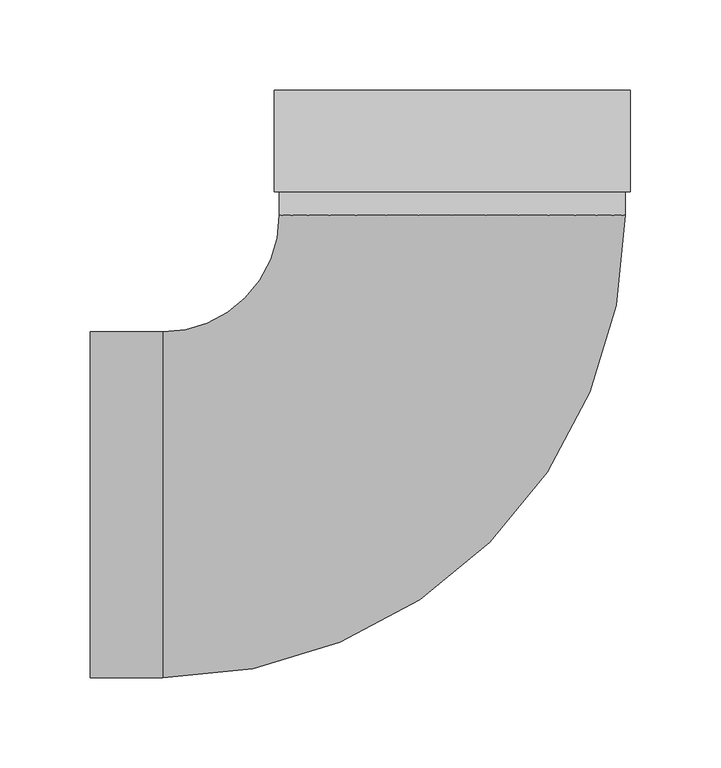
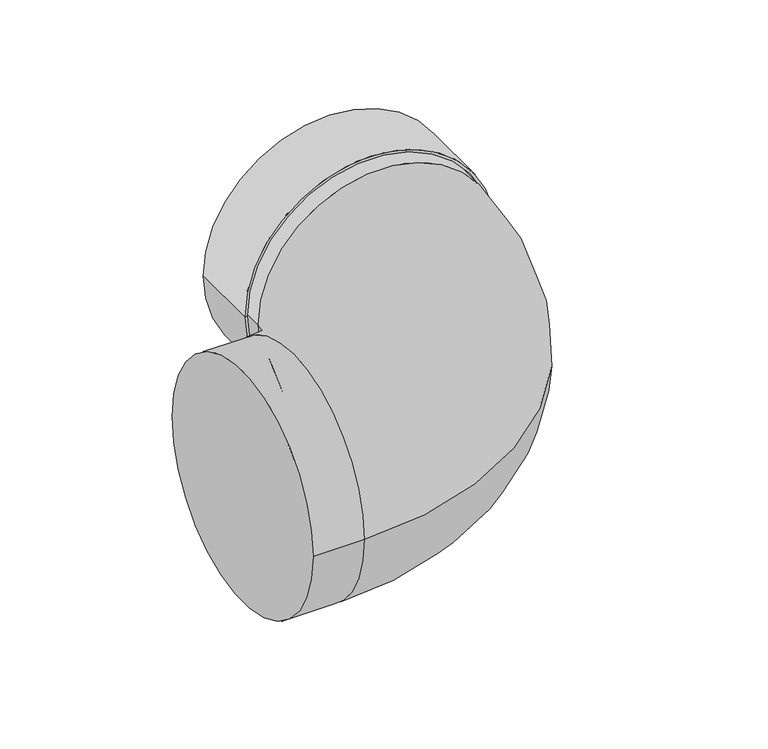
"""IFC4 building model written with IfcOpenShell, lengths in millimetres: duct fitting geometry, NLRS_57_DUF_UN_bend EPS_M&G : ø125 - ø200."""

import ifcopenshell
import ifcopenshell.guid

model = None  # the IFC model being written
_history = None  # IfcOwnerHistory: only IFC2X3 demands one
_inside = {}  # id of a spatial element -> (the spatial element, [elements in it])
_under = {}  # id of a project, library or spatial element -> (it, [spatial elements below it])
_declared = {}  # id of a project -> (the project, [libraries it declares])
_typed = {}  # id of a type object -> (the type object, [elements of that type])
_made_of = {}  # id of a material, layer set ... -> (it, [elements and type objects made of it])


def new_model(schema):
    """Start an empty IFC model of exactly this schema.

    Asked for "IFC4X3", IfcOpenShell would pick the latest addendum, in which some entities
    have other attributes; the version numbers below select the first issue.
    IFC2X3 requires an IfcOwnerHistory on every rooted entity: one is made here for all.
    """
    global model, _history
    if schema == "IFC4X3":
        model = ifcopenshell.file(schema_version=(4, 3, 0, 0))
    else:
        model = ifcopenshell.file(schema=schema)
    _inside.clear()
    _under.clear()
    _declared.clear()
    _typed.clear()
    _made_of.clear()
    _history = None
    if model.schema == "IFC2X3":
        org = make("IfcOrganization", Name="unknown")
        user = make(
            "IfcPersonAndOrganization",
            ThePerson=make("IfcPerson", FamilyName="unknown"),
            TheOrganization=org,
        )
        app = make(
            "IfcApplication",
            ApplicationDeveloper=org,
            Version="unknown",
            ApplicationFullName="unknown",
            ApplicationIdentifier="unknown",
        )
        _history = make(
            "IfcOwnerHistory",
            OwningUser=user,
            OwningApplication=app,
            ChangeAction="ADDED",
            CreationDate=0,
        )
    return model


def make(cls, **values):
    """One entity of the class cls with the attributes given. An attribute that is None is left unset."""
    return model.create_entity(
        cls, **{name: value for name, value in values.items() if value is not None}
    )


def rooted(cls, **values):
    """An entity with a GlobalId (a new one), such as an element, a storey or a relation."""
    return make(cls, GlobalId=ifcopenshell.guid.new(), OwnerHistory=_history, **values)


def si_unit(unit_type, name, prefix=None):
    """IfcSIUnit, for example si_unit("LENGTHUNIT", "METRE", prefix="MILLI")."""
    return make("IfcSIUnit", UnitType=unit_type, Prefix=prefix, Name=name)


def assignment(units):
    """IfcUnitAssignment: the units of a project."""
    return None if units is None else make("IfcUnitAssignment", Units=units)


def point(xyz):
    """IfcCartesianPoint."""
    return None if xyz is None else make("IfcCartesianPoint", Coordinates=xyz)


def direction(xyz):
    """IfcDirection."""
    return None if xyz is None else make("IfcDirection", DirectionRatios=xyz)


def frame(location, z_axis=None, x_axis=None):
    """IfcAxis2Placement3D, a coordinate frame: its origin and axes. An axis left out is left unset."""
    return make(
        "IfcAxis2Placement3D",
        Location=point(location),
        Axis=direction(z_axis),
        RefDirection=direction(x_axis),
    )


def origin():
    """The frame at (0, 0, 0) with its axes left unset."""
    return frame((0.0, 0.0, 0.0))


def place(relative_to, where):
    """IfcLocalPlacement: puts the frame where relative to a parent placement (None: the world)."""
    return make(
        "IfcLocalPlacement", PlacementRelTo=relative_to, RelativePlacement=where
    )


def context(
    kind, dimensions, precision=None, world=None, true_north=None, identifier=None
):
    """IfcGeometricRepresentationContext, for example the 3D "Model" context."""
    return make(
        "IfcGeometricRepresentationContext",
        ContextIdentifier=identifier,
        ContextType=kind,
        CoordinateSpaceDimension=dimensions,
        Precision=precision,
        WorldCoordinateSystem=world,
        TrueNorth=true_north,
    )


def project(units=None, contexts=None):
    """IfcProject with its units and contexts."""
    return rooted(
        "IfcProject",
        Name="project",
        RepresentationContexts=contexts,
        UnitsInContext=assignment(units),
    )


def spatial(cls, under=None, at=None, **own):
    """A site, building, storey or space (cls), placed at a placement, below another one or the project."""
    s = rooted(cls, ObjectPlacement=at, **own)
    if under is not None:
        _under.setdefault(under.id(), (under, []))[1].append(s)
    return s


def polyline(points):
    """IfcPolyline through the points."""
    return make("IfcPolyline", Points=[point(p) for p in points])


def circle_curve(where, radius):
    """IfcCircle in the frame where."""
    return make("IfcCircle", Position=where, Radius=radius)


def ellipse_curve(where, semi_axis1, semi_axis2):
    """IfcEllipse in the frame where."""
    return make(
        "IfcEllipse", Position=where, SemiAxis1=semi_axis1, SemiAxis2=semi_axis2
    )


def trimmed(basis, trim1, trim2, sense, master):
    """IfcTrimmedCurve: the piece of a basis curve between two trims."""
    return make(
        "IfcTrimmedCurve",
        BasisCurve=basis,
        Trim1=trim1,
        Trim2=trim2,
        SenseAgreement=sense,
        MasterRepresentation=master,
    )


def shape(context_of_items, identifier, shape_type, items):
    """IfcShapeRepresentation: the items that make up one representation, for example the "Body"."""
    return make(
        "IfcShapeRepresentation",
        ContextOfItems=context_of_items,
        RepresentationIdentifier=identifier,
        RepresentationType=shape_type,
        Items=items,
    )


def source(mapping_origin, context_of_items, identifier, shape_type, items):
    """IfcRepresentationMap: a shape defined once, which mapped items show again and again."""
    return make(
        "IfcRepresentationMap",
        MappingOrigin=mapping_origin,
        MappedRepresentation=shape(context_of_items, identifier, shape_type, items),
    )


def transform(
    local_origin,
    x_axis=None,
    y_axis=None,
    z_axis=None,
    scale=None,
    scale2=None,
    scale3=None,
    uniform=True,
):
    """IfcCartesianTransformationOperator3D, or its non-uniform kind. x_axis, y_axis, z_axis: its Axis1, 2, 3."""
    if uniform:
        return make(
            "IfcCartesianTransformationOperator3D",
            Axis1=direction(x_axis),
            Axis2=direction(y_axis),
            LocalOrigin=point(local_origin),
            Scale=scale,
            Axis3=direction(z_axis),
        )
    return make(
        "IfcCartesianTransformationOperator3DnonUniform",
        Axis1=direction(x_axis),
        Axis2=direction(y_axis),
        LocalOrigin=point(local_origin),
        Scale=scale,
        Axis3=direction(z_axis),
        Scale2=scale2,
        Scale3=scale3,
    )


def mapped(mapping_source, mapping_target):
    """IfcMappedItem: shows the shape of a source again, moved by a transform."""
    return make(
        "IfcMappedItem", MappingSource=mapping_source, MappingTarget=mapping_target
    )


def made_of(thing, what):
    """Note that an element or type object is made of a material, layer set ...; save() writes the relation."""
    if what is not None:
        _made_of.setdefault(what.id(), (what, []))[1].append(thing)
    return thing


def element(
    cls,
    number,
    at=None,
    inside=None,
    cuts=None,
    type_object=None,
    material=None,
    context=None,
    identifier="Body",
    shape_type=None,
    held_by="IfcProductDefinitionShape",
    body=None,
    shapes=None,
    **own,
):
    """One element of the class cls, such as IfcWall. Its Tag is "e" and its number.

    at: its placement. inside: the storey or other place that contains it. cuts: it is an
    opening in that element (IfcRelVoidsElement). A single representation is given by context,
    identifier, shape_type and body (its items); several are given by shapes. held_by: the class
    of the entity that holds the representations. save() writes the other relations.
    """
    e = rooted(cls, Tag="e%d" % number, ObjectPlacement=at, **own)
    if body is not None:
        shapes = [shape(context, identifier, shape_type, body)]
    if shapes is not None:
        e.Representation = make(held_by, Representations=shapes)
    if inside is not None:
        _inside.setdefault(inside.id(), (inside, []))[1].append(e)
    if cuts is not None:
        rooted(
            "IfcRelVoidsElement", RelatingBuildingElement=cuts, RelatedOpeningElement=e
        )
    if type_object is not None:
        _typed.setdefault(type_object.id(), (type_object, []))[1].append(e)
    return made_of(e, material)


def aggregate(whole, parts):
    """IfcRelAggregates: a whole, such as a stair, and the parts it consists of."""
    return rooted("IfcRelAggregates", RelatingObject=whole, RelatedObjects=parts)


def save(model, path):
    """Write the relations noted so far, then the file.

    IfcRelAggregates (storeys below a building ...), IfcRelContainedInSpatialStructure (elements
    in a storey), IfcRelDefinesByType, IfcRelAssociatesMaterial and IfcRelDeclares: one each for
    every whole, place, type object, material and project.
    """
    for whole, parts in _under.values():
        aggregate(whole, parts)
    for where, things in _inside.values():
        rooted(
            "IfcRelContainedInSpatialStructure",
            RelatedElements=things,
            RelatingStructure=where,
        )
    for kind, things in _typed.values():
        rooted("IfcRelDefinesByType", RelatedObjects=things, RelatingType=kind)
    for what, things in _made_of.values():
        rooted("IfcRelAssociatesMaterial", RelatedObjects=things, RelatingMaterial=what)
    for by, libraries in _declared.values():
        rooted("IfcRelDeclares", RelatingContext=by, RelatedDefinitions=libraries)
    model.write(path)


def plane_surface(at):
    """IfcPlane: the flat surface through the origin of the frame at, square to its z axis."""
    return make("IfcPlane", Position=at)


def cylinder_surface(at, radius):
    """IfcCylindricalSurface: all points at the distance radius from the z axis of the frame at."""
    return make("IfcCylindricalSurface", Position=at, Radius=radius)


def revolved_surface(curve, axis_point, axis_direction):
    """IfcSurfaceOfRevolution: the curve turned about the line through axis_point along axis_direction."""
    return make(
        "IfcSurfaceOfRevolution",
        SweptCurve=make("IfcArbitraryOpenProfileDef", ProfileType="CURVE", Curve=curve),
        AxisPosition=make("IfcAxis1Placement", Location=point(axis_point), Axis=direction(axis_direction)),
    )


def advanced_brep(points, edges, surfaces, faces):
    """IfcAdvancedBrep: a solid bounded by faces that lie on surfaces and meet in shared edges.

    An edge is (start, end): straight between two places in points (the first is 0);
    or (start, end, curve); or (start, end, curve, False) where it runs against its curve.
    A face is (place in surfaces, loops), or (place, loops, False) where it looks against
    its surface's normal. A loop lists edges by number (the first is 1), with a minus sign
    where the edge is run from its end to its start. The first loop is the outer one.
    """
    corners = [point(p) for p in points]
    vertices = [make("IfcVertexPoint", VertexGeometry=c) for c in corners]
    made = []
    for start, end, *more in edges:
        made.append(
            make(
                "IfcEdgeCurve",
                EdgeStart=vertices[start],
                EdgeEnd=vertices[end],
                EdgeGeometry=more[0] if more else make("IfcPolyline", Points=[corners[start], corners[end]]),
                SameSense=more[1] if len(more) > 1 else True,
            )
        )
    hull = []
    for where, loops, *sense in faces:
        bounds = []
        for j, loop in enumerate(loops):
            ring = [make("IfcOrientedEdge", EdgeElement=made[abs(k) - 1], Orientation=k > 0) for k in loop]
            bounds.append(
                make(
                    "IfcFaceOuterBound" if j == 0 else "IfcFaceBound",
                    Bound=make("IfcEdgeLoop", EdgeList=ring),
                    Orientation=True,
                )
            )
        hull.append(make("IfcAdvancedFace", Bounds=bounds, FaceSurface=surfaces[where], SameSense=sense[0] if sense else True))
    return make("IfcAdvancedBrep", Outer=make("IfcClosedShell", CfsFaces=hull))


def duct_fitting_fd6ccee5(model_context):
    return source(origin(), model_context, "Body", "AdvancedBrep", [
        advanced_brep(
        [(98.5, 173.0, 0.0), (-98.5, 173.0, 0.0), (-98.5, 229.0, 0.0), (98.5, 229.0, 0.0), (96.5, 173.0, 0.0), (-96.5, 173.0, 0.0), (96.5, 200.0, 0.0), (-96.5, 200.0, 0.0), (94.5, 200.0, 0.0), (-94.5, 200.0, 0.0), (96.5, 202.0, 0.0), (-96.5, 202.0, 0.0), (-94.5, 202.0, 0.0), (94.5, 202.0, 0.0), (96.5, 229.0, 0.0), (-96.5, 229.0, 0.0)],
        [
            (0, 1, circle_curve(frame((0.0, 173.0, 0.0), z_axis=(0.0, 1.0, 0.0), x_axis=(-1.0, 0.0, 0.0)), 98.5)),
            (1, 2),
            (2, 3, circle_curve(frame((0.0, 229.0, 0.0), z_axis=(0.0, -1.0, 0.0), x_axis=(-1.0, 0.0, 0.0)), 98.5)),
            (3, 0),
            (1, 0, circle_curve(frame((0.0, 173.0, 0.0), z_axis=(0.0, 1.0, 0.0), x_axis=(-1.0, 0.0, 0.0)), 98.5)),
            (3, 2, circle_curve(frame((0.0, 229.0, 0.0), z_axis=(0.0, -1.0, 0.0), x_axis=(-1.0, 0.0, 0.0)), 98.5)),
            (4, 5, circle_curve(frame((0.0, 173.0, 0.0), z_axis=(0.0, 1.0, 0.0), x_axis=(-1.0, 0.0, 0.0)), 96.5)),
            (5, 1),
            (0, 4),
            (5, 4, circle_curve(frame((0.0, 173.0, 0.0), z_axis=(0.0, 1.0, 0.0), x_axis=(-1.0, 0.0, 0.0)), 96.5)),
            (6, 7, circle_curve(frame((0.0, 200.0, 0.0), z_axis=(0.0, 1.0, 0.0), x_axis=(-1.0, 0.0, 0.0)), 96.5)),
            (7, 5),
            (4, 6),
            (7, 6, circle_curve(frame((0.0, 200.0, 0.0), z_axis=(0.0, 1.0, 0.0), x_axis=(-1.0, 0.0, 0.0)), 96.5)),
            (8, 9, circle_curve(frame((0.0, 200.0, 0.0), z_axis=(0.0, 1.0, 0.0), x_axis=(-1.0, 0.0, 0.0)), 94.5)),
            (9, 7),
            (6, 8),
            (9, 8, circle_curve(frame((0.0, 200.0, 0.0), z_axis=(0.0, 1.0, 0.0), x_axis=(-1.0, 0.0, 0.0)), 94.5)),
            (10, 11, circle_curve(frame((0.0, 202.0, 0.0), z_axis=(0.0, 1.0, 0.0), x_axis=(-1.0, 0.0, 0.0)), 96.5)),
            (11, 12),
            (12, 13, circle_curve(frame((0.0, 202.0, 0.0), z_axis=(0.0, -1.0, 0.0), x_axis=(-1.0, 0.0, 0.0)), 94.5)),
            (13, 10),
            (11, 10, circle_curve(frame((0.0, 202.0, 0.0), z_axis=(0.0, 1.0, 0.0), x_axis=(-1.0, 0.0, 0.0)), 96.5)),
            (13, 12, circle_curve(frame((0.0, 202.0, 0.0), z_axis=(0.0, -1.0, 0.0), x_axis=(-1.0, 0.0, 0.0)), 94.5)),
            (14, 15, circle_curve(frame((0.0, 229.0, 0.0), z_axis=(0.0, 1.0, 0.0), x_axis=(-1.0, 0.0, 0.0)), 96.5)),
            (15, 11),
            (10, 14),
            (15, 14, circle_curve(frame((0.0, 229.0, 0.0), z_axis=(0.0, 1.0, 0.0), x_axis=(-1.0, 0.0, 0.0)), 96.5)),
            (2, 15),
            (14, 3),
            (12, 9),
            (8, 13),
        ],
        [
            cylinder_surface(frame((0.0, 2176.5, 0.0), z_axis=(0.0, -1.0, 0.0), x_axis=(-1.0, 0.0, 0.0)), 98.5),
            plane_surface(frame((0.0, 173.0, 0.0), z_axis=(0.0, -1.0, 0.0), x_axis=(-1.0, 0.0, 0.0))),
            revolved_surface(polyline([(-96.5, 173.0, 0.0), (-96.5, 200.0, 0.0)]), (0.0, 2176.5, 0.0), (0.0, -1.0, 0.0)),
            plane_surface(frame((0.0, 200.0, 0.0), z_axis=(0.0, -1.0, 0.0), x_axis=(-1.0, 0.0, 0.0))),
            plane_surface(frame((0.0, 202.0, 0.0), z_axis=(0.0, 1.0, 0.0), x_axis=(-1.0, 0.0, 0.0))),
            revolved_surface(polyline([(-96.5, 202.0, 0.0), (-96.5, 229.0, 0.0)]), (0.0, 2176.5, 0.0), (0.0, -1.0, 0.0)),
            plane_surface(frame((0.0, 229.0, 0.0), z_axis=(0.0, 1.0, 0.0), x_axis=(-1.0, 0.0, 0.0))),
            revolved_surface(polyline([(-94.5, 200.0, 0.0), (-94.5, 202.0, 0.0)]), (0.0, 2176.5, 0.0), (0.0, -1.0, 0.0)),
        ],
        [
            (0, [[1, 2, 3, 4]]),
            (0, [[5, -4, 6, -2]]),
            (1, [[7, 8, -1, 9]]),
            (1, [[10, -9, -5, -8]]),
            (2, [[11, 12, -7, 13]]),
            (2, [[14, -13, -10, -12]]),
            (3, [[15, 16, -11, 17]]),
            (3, [[18, -17, -14, -16]]),
            (4, [[19, 20, 21, 22]]),
            (4, [[23, -22, 24, -20]]),
            (5, [[25, 26, -19, 27]]),
            (5, [[28, -27, -23, -26]]),
            (6, [[-3, 29, -25, 30]]),
            (6, [[-6, -30, -28, -29]]),
            (7, [[-21, 31, -15, 32]]),
            (7, [[-24, -32, -18, -31]]),
        ],
    ),
        advanced_brep(
        [(-200.0, -95.5, 0.0), (-200.0, 95.5, 0.0), (-160.0, -95.5, 0.0), (-160.0, 95.5, 0.0), (-95.5, 160.0, 0.0), (95.5, 160.0, 0.0), (95.5, 200.0, 0.0), (-95.5, 200.0, 0.0)],
        [
            (0, 1, circle_curve(frame((-200.0, 0.0, 0.0), z_axis=(-1.0, 0.0, 0.0), x_axis=(0.0, 1.0, 0.0)), 95.5)),
            (1, 0, circle_curve(frame((-200.0, 0.0, 0.0), z_axis=(-1.0, 0.0, 0.0), x_axis=(0.0, 1.0, 0.0)), 95.5)),
            (0, 2),
            (2, 3, circle_curve(frame((-160.0, 0.0, 0.0), z_axis=(-1.0, 0.0, 0.0), x_axis=(0.0, 1.0, 0.0)), 95.5)),
            (3, 1),
            (3, 2, circle_curve(frame((-160.0, 0.0, 0.0), z_axis=(-1.0, 0.0, 0.0), x_axis=(0.0, 1.0, 0.0)), 95.5)),
            (4, 3, circle_curve(frame((-160.0, 160.0, 0.0), z_axis=(0.0, 0.0, -1.0), x_axis=(0.0, -1.0, 0.0)), 64.5)),
            (2, 5, circle_curve(frame((-160.0, 160.0, 0.0), z_axis=(0.0, 0.0, 1.0), x_axis=(0.0, -1.0, 0.0)), 255.5)),
            (5, 4, circle_curve(frame((0.0, 160.0, 0.0), z_axis=(0.0, -1.0, 0.0), x_axis=(-1.0, 0.0, 0.0)), 95.5)),
            (4, 5, circle_curve(frame((0.0, 160.0, 0.0), z_axis=(0.0, -1.0, 0.0), x_axis=(-1.0, 0.0, 0.0)), 95.5)),
            (6, 7, circle_curve(frame((0.0, 200.0, 0.0), z_axis=(0.0, 1.0, 0.0), x_axis=(-1.0, 0.0, 0.0)), 95.5)),
            (7, 6, circle_curve(frame((0.0, 200.0, 0.0), z_axis=(0.0, 1.0, 0.0), x_axis=(-1.0, 0.0, 0.0)), 95.5)),
            (5, 6),
            (7, 4),
        ],
        [
            plane_surface(frame((-200.0, 0.0, 0.0), z_axis=(-1.0, 0.0, 0.0), x_axis=(0.0, 0.0, 1.0))),
            cylinder_surface(frame((-200.0, 0.0, 0.0), z_axis=(-1.0, 0.0, 0.0), x_axis=(0.0, 1.0, 0.0)), 95.5),
            revolved_surface(trimmed(ellipse_curve(frame((-160.0, 0.0, 0.0), z_axis=(-1.0, 0.0, 0.0), x_axis=(0.0, 1.0, 0.0)), 95.5, 95.5), [point((-160.0, -95.5, 0.0))], [point((-160.0, 95.5, 0.0))], True, "CARTESIAN"), (-160.0, 160.0, 0.0), (0.0, 0.0, 1.0)),
            revolved_surface(trimmed(ellipse_curve(frame((-160.0, 0.0, 0.0), z_axis=(-1.0, 0.0, 0.0), x_axis=(0.0, 1.0, 0.0)), 95.5, 95.5), [point((-160.0, 95.5, 0.0))], [point((-160.0, -95.5, 0.0))], True, "CARTESIAN"), (-160.0, 160.0, 0.0), (0.0, 0.0, 1.0)),
            plane_surface(frame((0.0, 200.0, 0.0), z_axis=(0.0, 1.0, 0.0), x_axis=(0.0, 0.0, 1.0))),
            cylinder_surface(frame((0.0, 160.0, 0.0), z_axis=(0.0, -1.0, 0.0), x_axis=(-1.0, 0.0, 0.0)), 95.5),
        ],
        [
            (0, [[1, 2]]),
            (1, [[-1, 3, 4, 5]]),
            (1, [[-2, -5, 6, -3]]),
            (2, [[7, -4, 8, 9]]),
            (3, [[-8, -6, -7, 10]]),
            (4, [[11, 12]]),
            (5, [[-9, 13, -12, 14]]),
            (5, [[-10, -14, -11, -13]]),
        ],
    ),
    ])


if __name__ == "__main__":
    model = new_model("IFC4")
    model_context = context("Model", 3, world=origin())
    ifc_project = project(units=[si_unit("LENGTHUNIT", "METRE", prefix="MILLI")], contexts=[model_context])
    site = spatial("IfcSite", under=ifc_project)
    building = spatial("IfcBuilding", under=site)
    placement = place(None, origin())
    duct_fitting_shape = duct_fitting_fd6ccee5(model_context)
    element("IfcDuctFitting", 1, ObjectType="NLRS_57_DUF_UN_bend EPS_M&G : ø125 - ø200", at=placement, inside=building, context=model_context, shape_type="MappedRepresentation", body=[
        mapped(duct_fitting_shape, transform((0.0, 0.0, 0.0), x_axis=(1.0, 0.0, 0.0), y_axis=(0.0, 1.0, 0.0), z_axis=(0.0, 0.0, 1.0))),
    ])
    save(model, "model.ifc")
